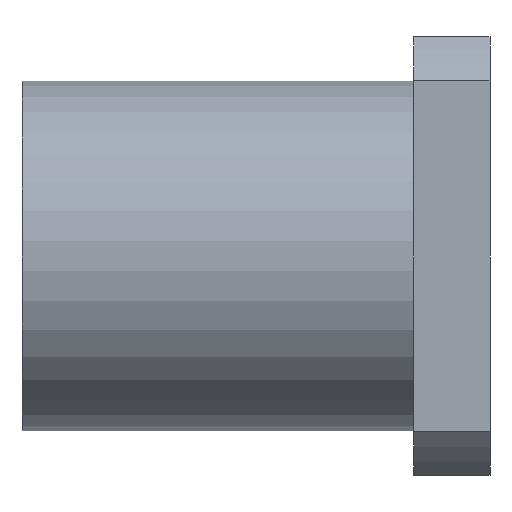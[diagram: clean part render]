
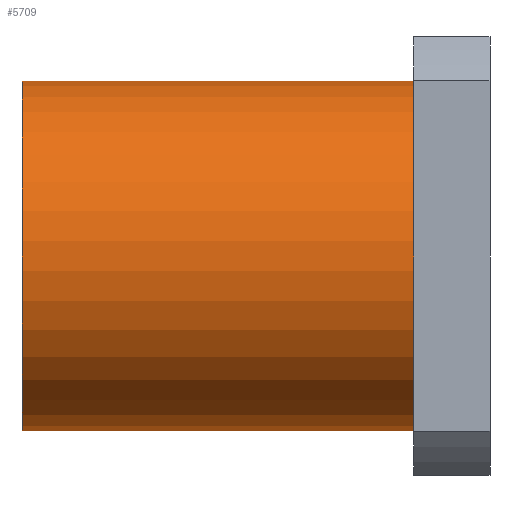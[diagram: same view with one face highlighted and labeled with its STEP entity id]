
A CAD part, front view. The second image highlights one B-rep face of the part: STEP entity #5709.
In plain terms, the highlighted cylindrical face has radius 30 mm (diameter 60 mm), a full revolution.
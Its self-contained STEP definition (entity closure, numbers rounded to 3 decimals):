
#80=CYLINDRICAL_SURFACE('',#6077,30.);
#115=CIRCLE('',#6078,30.);
#116=CIRCLE('',#6079,30.);
#1756=ORIENTED_EDGE('',*,*,#3401,.T.);
#1757=ORIENTED_EDGE('',*,*,#3402,.T.);
#3401=EDGE_CURVE('',#4222,#4222,#115,.T.);
#3402=EDGE_CURVE('',#4223,#4223,#116,.F.);
#4222=VERTEX_POINT('',#9013);
#4223=VERTEX_POINT('',#9015);
#4679=EDGE_LOOP('',(#1756));
#4680=EDGE_LOOP('',(#1757));
#5087=FACE_BOUND('',#4679,.T.);
#5088=FACE_BOUND('',#4680,.T.);
#5709=ADVANCED_FACE('',(#5087,#5088),#80,.T.);
#6077=AXIS2_PLACEMENT_3D('',#9011,#6621,#6622);
#6078=AXIS2_PLACEMENT_3D('',#9012,#6623,#6624);
#6079=AXIS2_PLACEMENT_3D('',#9014,#6625,#6626);
#6621=DIRECTION('',(1.,0.,0.));
#6622=DIRECTION('',(0.,0.707,-0.707));
#6623=DIRECTION('',(1.,0.,0.));
#6624=DIRECTION('',(0.,0.707,-0.707));
#6625=DIRECTION('',(1.,0.,0.));
#6626=DIRECTION('',(0.,0.707,-0.707));
#9011=CARTESIAN_POINT('',(-40.,0.,0.));
#9012=CARTESIAN_POINT('',(-40.,0.,0.));
#9013=CARTESIAN_POINT('',(-40.,21.213,-21.213));
#9014=CARTESIAN_POINT('',(27.,0.,0.));
#9015=CARTESIAN_POINT('',(27.,21.213,-21.213));
